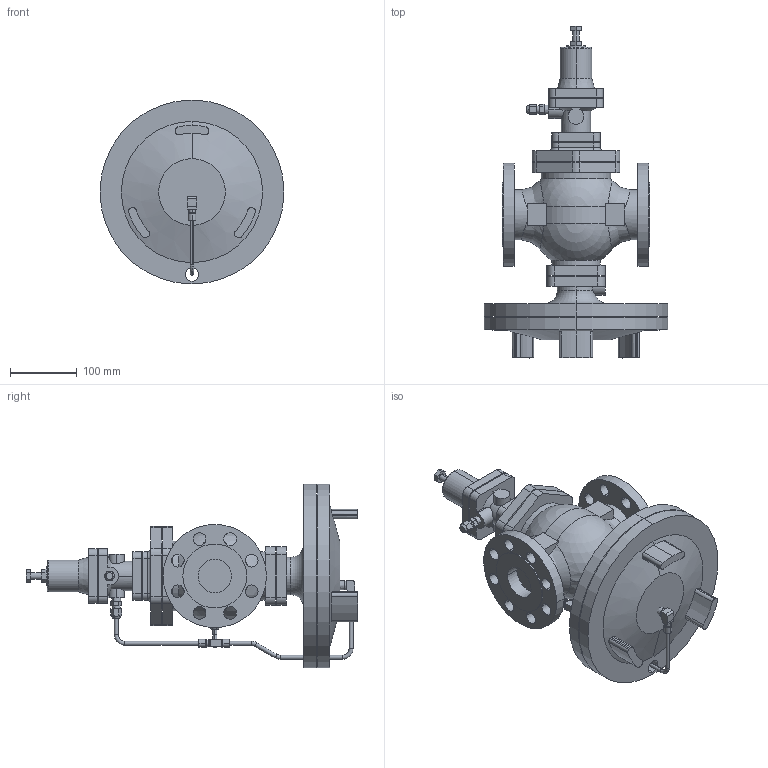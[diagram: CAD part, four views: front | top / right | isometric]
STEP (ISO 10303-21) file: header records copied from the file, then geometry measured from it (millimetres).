
FILE_DESCRIPTION (( 'STEP AP203' ), '1' );
FILE_NAME ('GPR-2000 JIS20K 50A.STEP', '2025-12-05T02:35:25', ( '' ), ( '' ), 'SwSTEP 2.0', 'SolidWorks 2024', '' );
FILE_SCHEMA (( 'CONFIG_CONTROL_DESIGN' ));
Length unit declared in the file: millimetre
Products named in the file (8): GPR-2000 JIS20K 50A; Pipe C 50A; Elbow; Pipe B 50A; Tee; GP-2000 Pipe A 50A; Joint; GPR-2000 Body Assy EN 50A
Assembly tree (9 placements, depth 2):
  GPR-2000 JIS20K 50A
    GPR-2000 Body Assy EN 50A
    Tee
    Pipe B 50A
    Joint  x3
    GP-2000 Pipe A 50A
    Elbow
    Pipe C 50A
Bounding box: 276 x 498.1 x 276 mm (x, y, z)
Volume: 6421716.3 mm3; surface area: 523796.6 mm2
Topology: 9 solids, 9 shells, 481 faces, 1227 edges, 811 vertices
Faces by surface type: cylinder 214, plane 213, cone 28, torus 18, sphere 4, bspline 4
Entity records: 16191 total; most frequent: CARTESIAN_POINT 4558, DIRECTION 2345, ORIENTED_EDGE 2170, EDGE_CURVE 1085, AXIS2_PLACEMENT_3D 908, VERTEX_POINT 711, LINE 529, VECTOR 529
